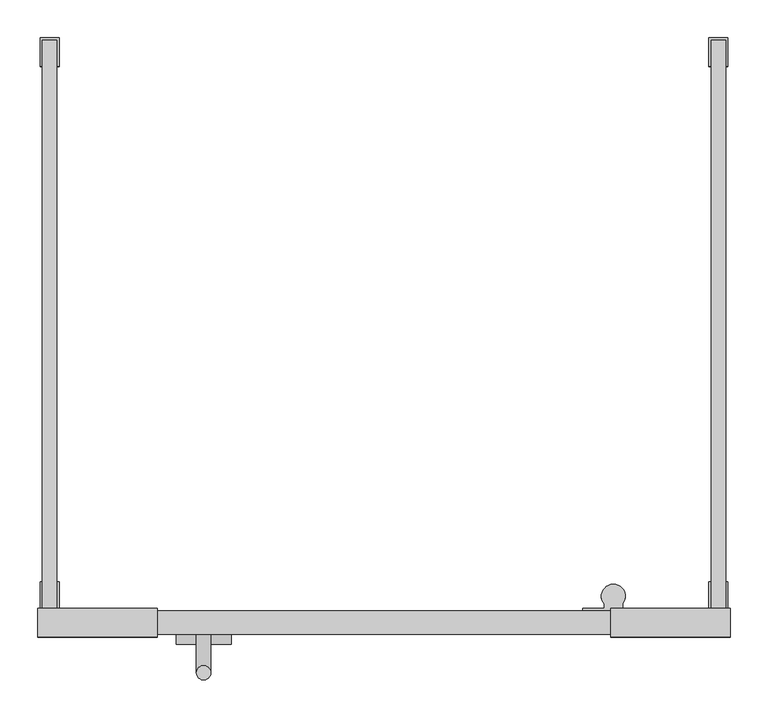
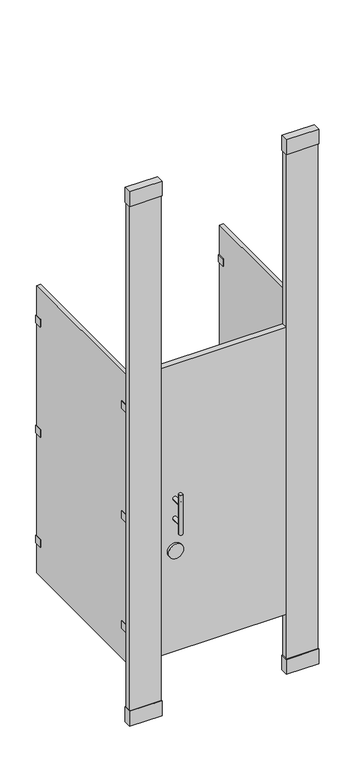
"""IFC4 building model written with IfcOpenShell, lengths in millimetres: proxy geometry, Toilet-Partition_Ironwood-Mfg_High-Pressure-Laminate : High Pressure Laminate - Floor to Ceiling - Flat Panel Door."""

from ifc_helpers import new_model, si_unit, point, frame, frame_2d, origin, origin_with_axes, place, context, project, spatial, polyline, circle_curve, ellipse_curve, trimmed, segment, composite_curve, outline, extrude, source, transform, mapped, element, save
from ifc_brep_helpers import plane_surface, cylinder_surface, advanced_brep


def specialty_equipment_aeacbdde(model_context):
    return source(origin(), model_context, "Body", "SolidModel", [
        extrude(outline(polyline([(542.925, -796.925), (542.925, -758.825), (701.675, -758.825), (701.675, -796.925), (542.925, -796.925)])), frame((0.0, 0.0, 2667.0), z_axis=(0.0, 0.0, 1.0), x_axis=(1.0, 0.0, 0.0)), (0.0, 0.0, 1.0), 76.1999999),
        extrude(outline(polyline([(701.675, -758.825), (701.675, -796.925), (542.925, -796.925), (542.925, -758.825), (701.675, -758.825)])), origin_with_axes(), (0.0, 0.0, 1.0), 76.2),
        extrude(outline(polyline([(698.5, -762.0), (698.5, -793.75), (546.1, -793.75), (546.1, -762.0), (698.5, -762.0)])), origin_with_axes(), (0.0, 0.0, 1.0), 2667.0),
        extrude(outline(polyline([(-60.325, -796.925), (-219.075, -796.925), (-219.075, -758.825), (-60.325, -758.825), (-60.325, -796.925)])), frame((0.0, 0.0, 2667.0), z_axis=(0.0, 0.0, 1.0), x_axis=(1.0, 0.0, 0.0)), (0.0, 0.0, 1.0), 76.1999999),
        extrude(outline(polyline([(-219.075, -758.825), (-60.325, -758.825), (-60.325, -796.925), (-219.075, -796.925), (-219.075, -758.825)])), origin_with_axes(), (0.0, 0.0, 1.0), 76.2),
        extrude(outline(polyline([(-215.9, -762.0), (-63.5, -762.0), (-63.5, -793.75), (-215.9, -793.75), (-215.9, -762.0)])), origin_with_axes(), (0.0, 0.0, 1.0), 2667.0),
        extrude(outline(polyline([(546.1, -793.75), (-63.5, -793.75), (-63.5, -762.0), (546.1, -762.0), (546.1, -793.75)])), frame((0.0, 0.0, 304.8), z_axis=(0.0, 0.0, 1.0), x_axis=(1.0, 0.0, 0.0)), (0.0, 0.0, 1.0), 1473.2),
        extrude(outline(composite_curve([segment(trimmed(circle_curve(frame_2d((827.0875, 1.5875)), 36.5125), [point((827.0875, -34.925))], [point((827.0875, 38.1))], False, "CARTESIAN"), True, "CONTINUOUS"), segment(trimmed(circle_curve(frame_2d((827.0875, 1.5875)), 36.5125), [point((827.0875, 38.1))], [point((827.0875, -34.925))], False, "CARTESIAN"), True, "CONTINUOUS")], self_intersect=False)), frame((0.0, -806.45, 0.0), z_axis=(0.0, 1.0, 0.0), x_axis=(0.0, 0.0, 1.0)), (0.0, 0.0, 1.0), 12.7),
        advanced_brep(
        [(-7.9375, -793.75, 1092.2), (11.1125, -793.75, 1092.2), (-7.9375, -793.75, 990.6), (11.1125, -793.75, 990.6), (11.1125, -844.55, 1092.2), (-7.9375, -844.55, 1092.2), (11.1125, -844.55, 990.6), (-7.9375, -844.55, 990.6), (-7.9375, -844.55, 1143.0), (11.1125, -844.55, 1143.0), (-7.9375, -844.55, 939.8), (11.1125, -844.55, 939.8)],
        [
            (0, 1, circle_curve(frame((1.5875, -793.75, 1092.2), z_axis=(0.0, 1.0, 0.0), x_axis=(1.0, 0.0, 0.0)), 9.525)),
            (1, 0, circle_curve(frame((1.5875, -793.75, 1092.2), z_axis=(0.0, 1.0, 0.0), x_axis=(1.0, 0.0, 0.0)), 9.525)),
            (2, 3, circle_curve(frame((1.5875, -793.75, 990.6), z_axis=(0.0, 1.0, 0.0), x_axis=(1.0, 0.0, 0.0)), 9.525)),
            (3, 2, circle_curve(frame((1.5875, -793.75, 990.6), z_axis=(0.0, 1.0, 0.0), x_axis=(1.0, 0.0, 0.0)), 9.525)),
            (1, 4),
            (4, 5, ellipse_curve(frame((1.5875, -844.55, 1092.2), z_axis=(0.0, 0.7071067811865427, 0.7071067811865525), x_axis=(0.0, -0.7071067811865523, 0.7071067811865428)), 13.4703842, 9.525)),
            (5, 0),
            (5, 4, ellipse_curve(frame((1.5875, -844.55, 1092.2), z_axis=(0.0, 0.7071067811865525, -0.7071067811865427), x_axis=(0.0, -0.7071067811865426, -0.7071067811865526)), 13.4703842, 9.525)),
            (3, 6),
            (6, 7, ellipse_curve(frame((1.5875, -844.55, 990.6), z_axis=(0.0, 0.7071067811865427, 0.7071067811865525), x_axis=(0.0, -0.7071067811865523, 0.7071067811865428)), 13.4703842, 9.525)),
            (7, 2),
            (7, 6, ellipse_curve(frame((1.5875, -844.55, 990.6), z_axis=(0.0, 0.7071067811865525, -0.7071067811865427), x_axis=(0.0, -0.7071067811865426, -0.7071067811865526)), 13.4703842, 9.525)),
            (8, 9, circle_curve(frame((1.5875, -844.55, 1143.0), z_axis=(0.0, 0.0, 1.0), x_axis=(1.0, 0.0, 0.0)), 9.525)),
            (9, 8, circle_curve(frame((1.5875, -844.55, 1143.0), z_axis=(0.0, 0.0, 1.0), x_axis=(1.0, 0.0, 0.0)), 9.525)),
            (10, 11, circle_curve(frame((1.5875, -844.55, 939.8), z_axis=(0.0, 0.0, -1.0), x_axis=(1.0, 0.0, 0.0)), 9.525)),
            (11, 10, circle_curve(frame((1.5875, -844.55, 939.8), z_axis=(0.0, 0.0, -1.0), x_axis=(1.0, 0.0, 0.0)), 9.525)),
            (8, 5),
            (5, 7),
            (7, 10),
            (11, 6),
            (6, 4),
            (4, 9),
        ],
        [
            plane_surface(frame((11.1125, -793.75, 1092.2), z_axis=(0.0, 1.0, 0.0), x_axis=(0.0, 0.0, -1.0))),
            cylinder_surface(frame((1.5875, -793.75, 1092.2), z_axis=(0.0, -1.0, 0.0), x_axis=(1.0, 0.0, 0.0)), 9.525),
            cylinder_surface(frame((1.5875, -793.75, 990.6), z_axis=(0.0, -1.0, 0.0), x_axis=(1.0, 0.0, 0.0)), 9.525),
            plane_surface(frame((11.1125, -844.55, 1143.0), z_axis=(0.0, 0.0, 1.0), x_axis=(0.0, 1.0, 0.0))),
            plane_surface(frame((11.1125, -844.55, 939.8), z_axis=(0.0, 0.0, -1.0), x_axis=(0.0, -1.0, 0.0))),
            cylinder_surface(frame((1.5875, -844.55, 939.8), z_axis=(0.0, 0.0, 1.0), x_axis=(1.0, 0.0, 0.0)), 9.525),
        ],
        [
            (0, [[1, 2]]),
            (0, [[3, 4]]),
            (1, [[-2, 5, 6, 7]]),
            (1, [[-1, -7, 8, -5]]),
            (2, [[-4, 9, 10, 11]]),
            (2, [[-3, -11, 12, -9]]),
            (3, [[13, 14]]),
            (4, [[15, 16]]),
            (5, [[-13, 17, 18, 19, -16, 20, 21, 22]]),
            (5, [[-14, -22, -8, -17]]),
            (5, [[-15, -19, -10, -20]]),
            (5, [[-18, -6, -21, -12]]),
        ],
    ),
        extrude(outline(composite_curve([segment(polyline([(581.3737081, -762.0), (505.1737081, -762.0), (505.1737081, -758.825), (533.7487081, -758.825), (533.7487081, -752.9581331)]), True, "CONTINUOUS"), segment(trimmed(circle_curve(frame_2d((546.1, -742.8902139)), 15.9347861), [point((533.7487081, -752.9581331))], [point((558.4512919, -752.9581331))], False, "CARTESIAN"), True, "CONTINUOUS"), segment(polyline([(558.4512919, -752.9581331), (558.4512919, -758.825), (581.3737081, -758.825), (581.3737081, -762.0)]), True, "CONTINUOUS")], self_intersect=False)), frame((0.0, 0.0, 1574.8), z_axis=(0.0, 0.0, 1.0), x_axis=(1.0, 0.0, 0.0)), (0.0, 0.0, 1.0), 63.5),
        extrude(outline(composite_curve([segment(polyline([(581.3737081, -762.0), (505.1737081, -762.0), (505.1737081, -758.825), (533.7487081, -758.825), (533.7487081, -752.9581331)]), True, "CONTINUOUS"), segment(trimmed(circle_curve(frame_2d((546.1, -742.8902139)), 15.9347861), [point((533.7487081, -752.9581331))], [point((558.4512919, -752.9581331))], False, "CARTESIAN"), True, "CONTINUOUS"), segment(polyline([(558.4512919, -752.9581331), (558.4512919, -758.825), (581.3737081, -758.825), (581.3737081, -762.0)]), True, "CONTINUOUS")], self_intersect=False)), frame((0.0, 0.0, 1009.6500001), z_axis=(0.0, 0.0, 1.0), x_axis=(1.0, 0.0, 0.0)), (0.0, 0.0, 1.0), 63.5),
        extrude(outline(composite_curve([segment(polyline([(581.3737081, -762.0), (505.1737081, -762.0), (505.1737081, -758.825), (533.7487081, -758.825), (533.7487081, -752.9581331)]), True, "CONTINUOUS"), segment(trimmed(circle_curve(frame_2d((546.1, -742.8902139)), 15.9347861), [point((533.7487081, -752.9581331))], [point((558.4512919, -752.9581331))], False, "CARTESIAN"), True, "CONTINUOUS"), segment(polyline([(558.4512919, -752.9581331), (558.4512919, -758.825), (581.3737081, -758.825), (581.3737081, -762.0)]), True, "CONTINUOUS")], self_intersect=False)), frame((0.0, 0.0, 444.5), z_axis=(0.0, 0.0, 1.0), x_axis=(1.0, 0.0, 0.0)), (0.0, 0.0, 1.0), 63.5),
        extrude(outline(polyline([(676.148, -723.9), (676.148, -758.825), (695.198, -758.825), (695.198, -723.9), (698.373, -723.9), (698.373, -762.0), (672.973, -762.0), (672.973, -723.9), (676.148, -723.9)])), frame((0.0, 0.0, 1587.8188137), z_axis=(0.0, 0.0, 1.0), x_axis=(1.0, 0.0, 0.0)), (0.0, 0.0, 1.0), 38.1),
        extrude(outline(polyline([(676.148, -38.1), (672.973, -38.1), (672.973, 0.0), (698.373, 0.0), (698.373, -38.1), (695.198, -38.1), (695.198, -3.175), (676.148, -3.175), (676.148, -38.1)])), frame((0.0, 0.0, 1587.8188137), z_axis=(0.0, 0.0, 1.0), x_axis=(1.0, 0.0, 0.0)), (0.0, 0.0, 1.0), 38.1),
        extrude(outline(polyline([(676.148, -723.9), (676.148, -758.825), (695.198, -758.825), (695.198, -723.9), (698.373, -723.9), (698.373, -762.0), (672.973, -762.0), (672.973, -723.9), (676.148, -723.9)])), frame((0.0, 0.0, 1022.35), z_axis=(0.0, 0.0, 1.0), x_axis=(1.0, 0.0, 0.0)), (0.0, 0.0, 1.0), 38.1),
        extrude(outline(polyline([(676.148, -38.1), (672.973, -38.1), (672.973, 0.0), (698.373, 0.0), (698.373, -38.1), (695.198, -38.1), (695.198, -3.175), (676.148, -3.175), (676.148, -38.1)])), frame((0.0, 0.0, 1022.35), z_axis=(0.0, 0.0, 1.0), x_axis=(1.0, 0.0, 0.0)), (0.0, 0.0, 1.0), 38.1),
        extrude(outline(polyline([(676.148, -723.9), (676.148, -758.825), (695.198, -758.825), (695.198, -723.9), (698.373, -723.9), (698.373, -762.0), (672.973, -762.0), (672.973, -723.9), (676.148, -723.9)])), frame((0.0, 0.0, 457.2), z_axis=(0.0, 0.0, 1.0), x_axis=(1.0, 0.0, 0.0)), (0.0, 0.0, 1.0), 38.1),
        extrude(outline(polyline([(676.148, -38.1), (672.973, -38.1), (672.973, 0.0), (698.373, 0.0), (698.373, -38.1), (695.198, -38.1), (695.198, -3.175), (676.148, -3.175), (676.148, -38.1)])), frame((0.0, 0.0, 457.2), z_axis=(0.0, 0.0, 1.0), x_axis=(1.0, 0.0, 0.0)), (0.0, 0.0, 1.0), 38.1),
        extrude(outline(polyline([(-212.598, -723.9), (-212.598, -758.825), (-193.548, -758.825), (-193.548, -723.9), (-190.373, -723.9), (-190.373, -762.0), (-215.773, -762.0), (-215.773, -723.9), (-212.598, -723.9)])), frame((0.0, 0.0, 1587.8188137), z_axis=(0.0, 0.0, 1.0), x_axis=(1.0, 0.0, 0.0)), (0.0, 0.0, 1.0), 38.1),
        extrude(outline(polyline([(-212.598, -38.1), (-215.773, -38.1), (-215.773, 0.0), (-190.373, 0.0), (-190.373, -38.1), (-193.548, -38.1), (-193.548, -3.175), (-212.598, -3.175), (-212.598, -38.1)])), frame((0.0, 0.0, 1587.8188137), z_axis=(0.0, 0.0, 1.0), x_axis=(1.0, 0.0, 0.0)), (0.0, 0.0, 1.0), 38.1),
        extrude(outline(polyline([(-212.598, -723.9), (-212.598, -758.825), (-193.548, -758.825), (-193.548, -723.9), (-190.373, -723.9), (-190.373, -762.0), (-215.773, -762.0), (-215.773, -723.9), (-212.598, -723.9)])), frame((0.0, 0.0, 1022.35), z_axis=(0.0, 0.0, 1.0), x_axis=(1.0, 0.0, 0.0)), (0.0, 0.0, 1.0), 38.1),
        extrude(outline(polyline([(-212.598, -38.1), (-215.773, -38.1), (-215.773, 0.0), (-190.373, 0.0), (-190.373, -38.1), (-193.548, -38.1), (-193.548, -3.175), (-212.598, -3.175), (-212.598, -38.1)])), frame((0.0, 0.0, 1022.35), z_axis=(0.0, 0.0, 1.0), x_axis=(1.0, 0.0, 0.0)), (0.0, 0.0, 1.0), 38.1),
        extrude(outline(polyline([(-212.598, -723.9), (-212.598, -758.825), (-193.548, -758.825), (-193.548, -723.9), (-190.373, -723.9), (-190.373, -762.0), (-215.773, -762.0), (-215.773, -723.9), (-212.598, -723.9)])), frame((0.0, 0.0, 457.2), z_axis=(0.0, 0.0, 1.0), x_axis=(1.0, 0.0, 0.0)), (0.0, 0.0, 1.0), 38.1),
        extrude(outline(polyline([(-212.598, -38.1), (-215.773, -38.1), (-215.773, 0.0), (-190.373, 0.0), (-190.373, -38.1), (-193.548, -38.1), (-193.548, -3.175), (-212.598, -3.175), (-212.598, -38.1)])), frame((0.0, 0.0, 457.2), z_axis=(0.0, 0.0, 1.0), x_axis=(1.0, 0.0, 0.0)), (0.0, 0.0, 1.0), 38.1),
        extrude(outline(polyline([(-193.548, -3.175), (-193.548, -758.825), (-212.598, -758.825), (-212.598, -3.175), (-193.548, -3.175)])), frame((0.0, 0.0, 304.8), z_axis=(0.0, 0.0, 1.0), x_axis=(1.0, 0.0, 0.0)), (0.0, 0.0, 1.0), 1473.2),
        extrude(outline(polyline([(695.198, -3.175), (695.198, -758.825), (676.148, -758.825), (676.148, -3.175), (695.198, -3.175)])), frame((0.0, 0.0, 304.8), z_axis=(0.0, 0.0, 1.0), x_axis=(1.0, 0.0, 0.0)), (0.0, 0.0, 1.0), 1473.2),
    ])


if __name__ == "__main__":
    model = new_model("IFC4")
    model_context = context("Model", 3, world=origin())
    ifc_project = project(units=[si_unit("LENGTHUNIT", "METRE", prefix="MILLI")], contexts=[model_context])
    site = spatial("IfcSite", under=ifc_project)
    building = spatial("IfcBuilding", under=site)
    placement = place(None, origin())
    specialty_equipment_shape = specialty_equipment_aeacbdde(model_context)
    element("IfcBuildingElementProxy", 1, Name="Toilet-Partition_Ironwood-Mfg_High-Pressure-Laminate : High Pressure Laminate - Floor to Ceiling - Flat Panel Door", ObjectType="Toilet-Partition_Ironwood-Mfg_High-Pressure-Laminate : High Pressure Laminate - Floor to Ceiling - Flat Panel Door", at=placement, inside=building, context=model_context, shape_type="MappedRepresentation", body=[
        mapped(specialty_equipment_shape, transform((0.0, 0.0, 0.0), x_axis=(1.0, 0.0, 0.0), y_axis=(0.0, 1.0, 0.0), z_axis=(0.0, 0.0, 1.0))),
    ])
    save(model, "model.ifc")
